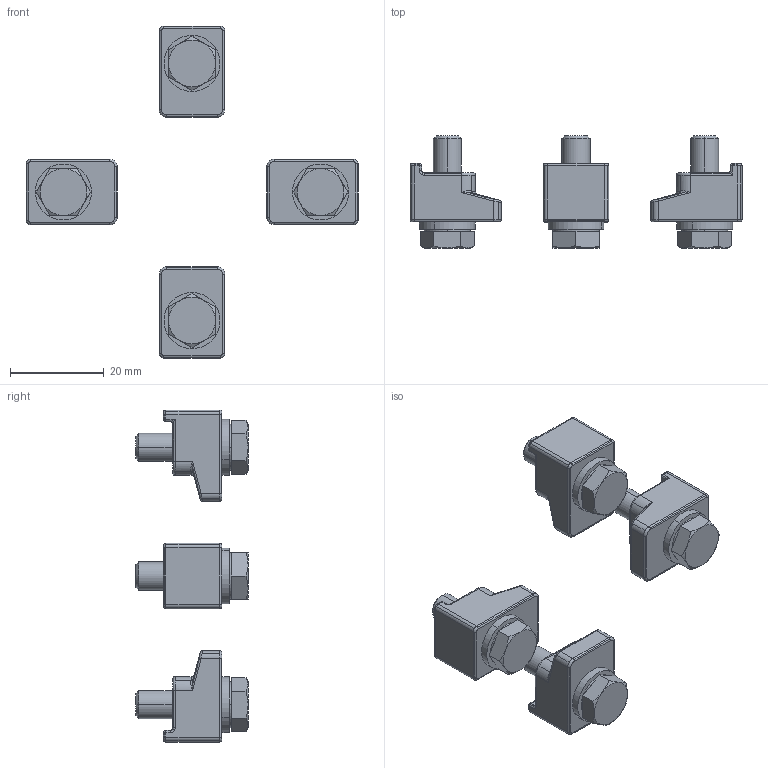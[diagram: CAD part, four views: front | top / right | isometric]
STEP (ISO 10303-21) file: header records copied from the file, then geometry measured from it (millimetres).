
FILE_DESCRIPTION((''),'2;1');
FILE_NAME('W:\211-015_25KF.stp','2003-10-30T13:45:16',('KAA'),(''),'Autodesk Inventor (R) 6.0','Autodesk Inventor (R) 6.0','');
FILE_SCHEMA(('CONFIG_CONTROL_DESIGN'));
Length unit declared in the file: millimetre
Products named in the file (1): 211-015_25KF
Bounding box: 71 x 24 x 71 mm (x, y, z)
Volume: 12515.2 mm3; surface area: 8026.8 mm2
Topology: 4 solids, 4 shells, 416 faces, 1028 edges, 620 vertices
Faces by surface type: cylinder 224, plane 84, bspline 60, torus 24, cone 16, sphere 8
Entity records: 15709 total; most frequent: CARTESIAN_POINT 5785, DIRECTION 2218, ORIENTED_EDGE 2016, EDGE_CURVE 1008, AXIS2_PLACEMENT_3D 913, VERTEX_POINT 620, CIRCLE 492, EDGE_LOOP 436
